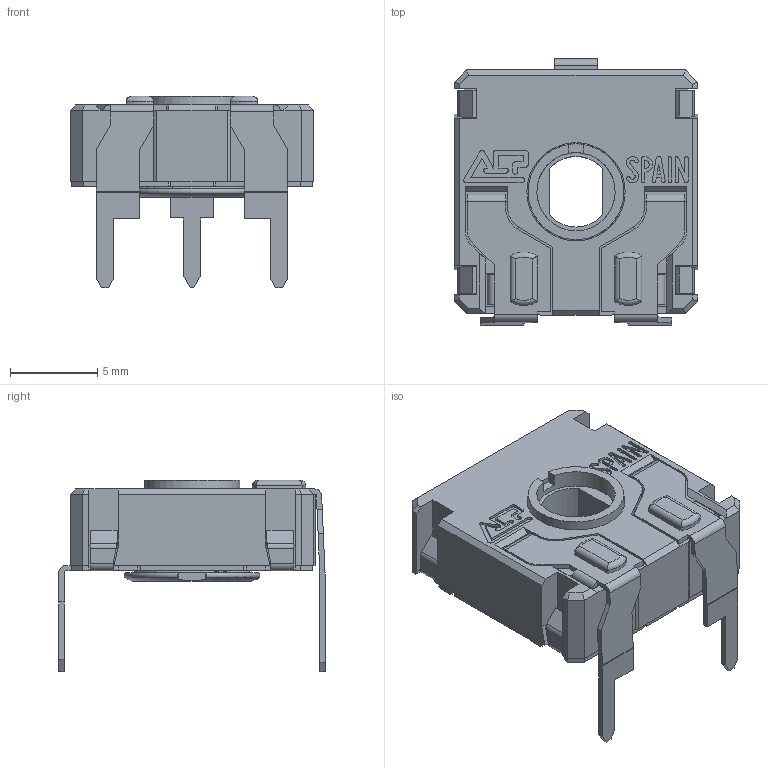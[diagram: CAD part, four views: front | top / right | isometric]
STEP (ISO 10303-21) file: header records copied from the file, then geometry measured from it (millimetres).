
FILE_DESCRIPTION(/* description */ (''),/* implementation_level */ '2;1');
FILE_NAME(/* name */ 'C:\Users\CEM\Desktop\ENVIAR\TRANSICION 3D CATALOGOS\CS14ZV15.stp',/* time_stamp */ '2025-10-24T17:51:36+02:00',/* author */ ('CEM'),/* organization */ (''),/* preprocessor_version */ 'ST-DEVELOPER v17',/* originating_system */ 'Autodesk Inventor 2018',/* authorisation */ '');
FILE_SCHEMA (('AUTOMOTIVE_DESIGN { 1 0 10303 214 3 1 1 }'));
Length unit declared in the file: millimetre
Products named in the file (1): CS14ZV15
Bounding box: 14 x 15.3 x 11 mm (x, y, z)
Volume: 552.5 mm3; surface area: 1612.6 mm2
Topology: 1 solids, 3 shells, 714 faces, 2004 edges, 1293 vertices
Faces by surface type: plane 544, cylinder 136, cone 15, bspline 10, torus 9
Full cylindrical faces by diameter (mm): 4.5 x1, 5.5 x1, 5.65 x1, 6.87 x1
Entity records: 23828 total; most frequent: CARTESIAN_POINT 4439, ORIENTED_EDGE 4008, DIRECTION 3726, EDGE_CURVE 2004, LINE 1582, VECTOR 1582, VERTEX_POINT 1293, AXIS2_PLACEMENT_3D 1072
